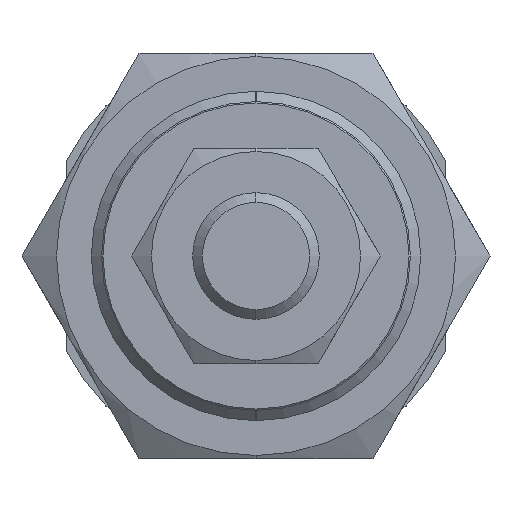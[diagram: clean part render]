
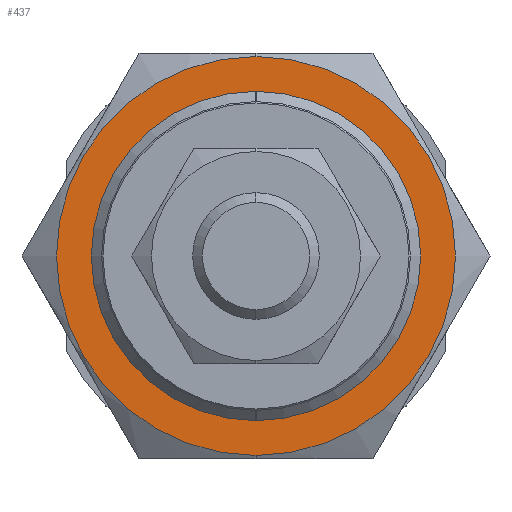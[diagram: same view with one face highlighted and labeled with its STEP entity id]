
A CAD part, left-side view. The second image highlights one B-rep face of the part: STEP entity #437.
In plain terms, the highlighted planar face has unit normal (-1, 0, 0).
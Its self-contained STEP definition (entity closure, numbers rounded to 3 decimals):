
#15 = CARTESIAN_POINT ( 'NONE',  ( -11., 0., 0. ) ) ;
#68 = CARTESIAN_POINT ( 'NONE',  ( -11., 0., 0. ) ) ;
#293 = DIRECTION ( 'NONE',  ( 0., 0., -1. ) ) ;
#437 = ADVANCED_FACE ( 'NONE', ( #5064, #2222 ), #2674, .F. ) ;
#511 = DIRECTION ( 'NONE',  ( 1., 0., 0. ) ) ;
#566 = ORIENTED_EDGE ( 'NONE', *, *, #4492, .F. ) ;
#699 = CARTESIAN_POINT ( 'NONE',  ( -11., 0., 0. ) ) ;
#864 = CIRCLE ( 'NONE', #2589, 15.75 ) ;
#1083 = DIRECTION ( 'NONE',  ( 1., 0., 0. ) ) ;
#1146 = CARTESIAN_POINT ( 'NONE',  ( -11., 0., 0. ) ) ;
#1174 = CARTESIAN_POINT ( 'NONE',  ( -11., 0., -15.75 ) ) ;
#1268 = VERTEX_POINT ( 'NONE', #3382 ) ;
#1292 = AXIS2_PLACEMENT_3D ( 'NONE', #699, #1083, #293 ) ;
#1344 = AXIS2_PLACEMENT_3D ( 'NONE', #68, #4652, #2569 ) ;
#1614 = EDGE_CURVE ( 'NONE', #1268, #4396, #2110, .T. ) ;
#1778 = CARTESIAN_POINT ( 'NONE',  ( -11., 0., 15.75 ) ) ;
#2023 = AXIS2_PLACEMENT_3D ( 'NONE', #4225, #511, #4257 ) ;
#2110 = CIRCLE ( 'NONE', #2023, 13. ) ;
#2222 = FACE_BOUND ( 'NONE', #4547, .T. ) ;
#2569 = DIRECTION ( 'NONE',  ( 0., 1., 0. ) ) ;
#2589 = AXIS2_PLACEMENT_3D ( 'NONE', #1146, #2801, #3232 ) ;
#2674 = PLANE ( 'NONE',  #1344 ) ;
#2801 = DIRECTION ( 'NONE',  ( 1., 0., 0. ) ) ;
#2926 = EDGE_LOOP ( 'NONE', ( #4049, #566 ) ) ;
#3220 = ORIENTED_EDGE ( 'NONE', *, *, #1614, .T. ) ;
#3232 = DIRECTION ( 'NONE',  ( 0., 0., -1. ) ) ;
#3292 = ORIENTED_EDGE ( 'NONE', *, *, #4193, .T. ) ;
#3382 = CARTESIAN_POINT ( 'NONE',  ( -11., 0., -13. ) ) ;
#3537 = CIRCLE ( 'NONE', #4834, 13. ) ;
#3918 = CARTESIAN_POINT ( 'NONE',  ( -11., 0., 13. ) ) ;
#3974 = VERTEX_POINT ( 'NONE', #1778 ) ;
#4049 = ORIENTED_EDGE ( 'NONE', *, *, #5219, .F. ) ;
#4193 = EDGE_CURVE ( 'NONE', #4396, #1268, #3537, .T. ) ;
#4225 = CARTESIAN_POINT ( 'NONE',  ( -11., 0., 0. ) ) ;
#4257 = DIRECTION ( 'NONE',  ( 0., 0., -1. ) ) ;
#4396 = VERTEX_POINT ( 'NONE', #3918 ) ;
#4410 = CIRCLE ( 'NONE', #1292, 15.75 ) ;
#4492 = EDGE_CURVE ( 'NONE', #3974, #4554, #864, .T. ) ;
#4547 = EDGE_LOOP ( 'NONE', ( #3292, #3220 ) ) ;
#4554 = VERTEX_POINT ( 'NONE', #1174 ) ;
#4652 = DIRECTION ( 'NONE',  ( 1., 0., 0. ) ) ;
#4834 = AXIS2_PLACEMENT_3D ( 'NONE', #15, #4956, #5331 ) ;
#4956 = DIRECTION ( 'NONE',  ( 1., 0., 0. ) ) ;
#5064 = FACE_OUTER_BOUND ( 'NONE', #2926, .T. ) ;
#5219 = EDGE_CURVE ( 'NONE', #4554, #3974, #4410, .T. ) ;
#5331 = DIRECTION ( 'NONE',  ( 0., 0., -1. ) ) ;
